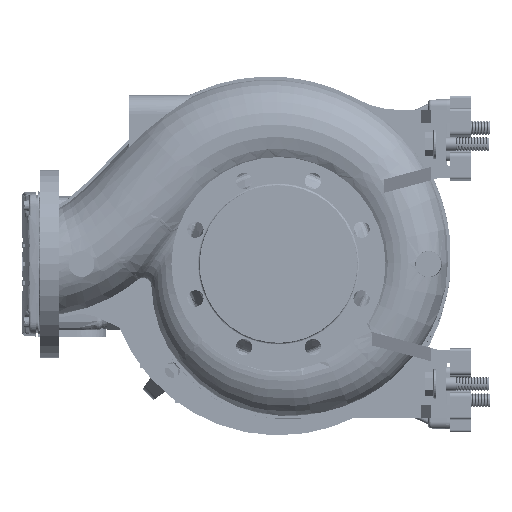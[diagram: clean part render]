
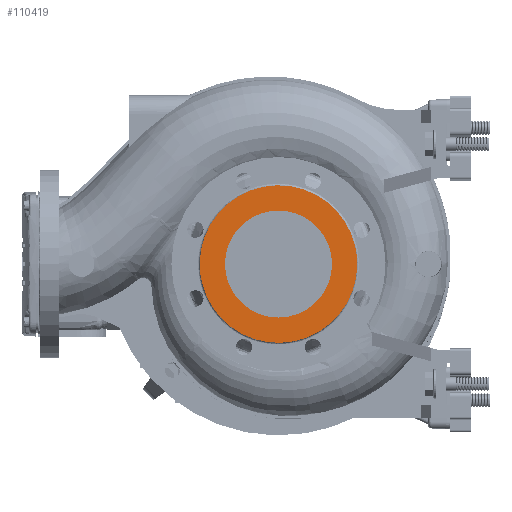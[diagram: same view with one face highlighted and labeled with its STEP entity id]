
A CAD part, left-side view. The second image highlights one B-rep face of the part: STEP entity #110419.
In plain terms, the highlighted planar face has unit normal (-1, 0, 0).
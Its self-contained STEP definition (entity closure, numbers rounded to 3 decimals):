
#4273 = CARTESIAN_POINT ( 'NONE',  ( -125., -93.104, 93.104 ) ) ;
#7447 = CARTESIAN_POINT ( 'NONE',  ( -125., 88.18, -26.749 ) ) ;
#10805 = CARTESIAN_POINT ( 'NONE',  ( -125., -65.473, 65.473 ) ) ;
#15192 = CARTESIAN_POINT ( 'NONE',  ( -125., 18.062, 90.815 ) ) ;
#16651 = CARTESIAN_POINT ( 'NONE',  ( -125., 88.18, 26.749 ) ) ;
#20717 = CARTESIAN_POINT ( 'NONE',  ( -125., 0., 62.5 ) ) ;
#23612 = DIRECTION ( 'NONE',  ( 1., 0., 0. ) ) ;
#28237 = CARTESIAN_POINT ( 'NONE',  ( -125., 91.704, -9.033 ) ) ;
#31132 = CARTESIAN_POINT ( 'NONE',  ( -125., -92., -6.021 ) ) ;
#34523 = CARTESIAN_POINT ( 'NONE',  ( -125., 66.273, 64.149 ) ) ;
#35985 = CARTESIAN_POINT ( 'NONE',  ( -125., 92., 0. ) ) ;
#37431 = CARTESIAN_POINT ( 'NONE',  ( -125., 32.548, 86.419 ) ) ;
#37528 = DIRECTION ( 'NONE',  ( 0., 0., -1. ) ) ;
#38875 = CARTESIAN_POINT ( 'NONE',  ( -125., -90.814, 18.064 ) ) ;
#50455 = CARTESIAN_POINT ( 'NONE',  ( -125., -65.473, -65.473 ) ) ;
#59745 = CARTESIAN_POINT ( 'NONE',  ( -125., 0., 0. ) ) ;
#60498 = VERTEX_POINT ( 'NONE', #168890 ) ;
#61986 = CARTESIAN_POINT ( 'NONE',  ( -125., 0., 0. ) ) ;
#67740 = EDGE_LOOP ( 'NONE', ( #276050, #166337 ) ) ;
#69487 = DIRECTION ( 'NONE',  ( 0., 0., -1. ) ) ;
#70948 = FACE_OUTER_BOUND ( 'NONE', #67740, .T. ) ;
#71223 = CARTESIAN_POINT ( 'NONE',  ( -125., -35.434, -85.545 ) ) ;
#77017 = CARTESIAN_POINT ( 'NONE',  ( -125., -90.814, -18.064 ) ) ;
#77503 = AXIS2_PLACEMENT_3D ( 'NONE', #61986, #267726, #226256 ) ;
#83318 = CARTESIAN_POINT ( 'NONE',  ( -125., -51.442, 76.988 ) ) ;
#94917 = CARTESIAN_POINT ( 'NONE',  ( -125., 58.458, -71.231 ) ) ;
#97810 = CARTESIAN_POINT ( 'NONE',  ( -125., 43.438, -81.267 ) ) ;
#98687 = CARTESIAN_POINT ( 'NONE',  ( -125., 0., -62.5 ) ) ;
#99274 = CARTESIAN_POINT ( 'NONE',  ( -125., -85.545, -35.434 ) ) ;
#101158 = CARTESIAN_POINT ( 'NONE',  ( -125., 74.163, 55.003 ) ) ;
#104116 = CARTESIAN_POINT ( 'NONE',  ( -125., 0.001, 92.593 ) ) ;
#107014 = CARTESIAN_POINT ( 'NONE',  ( -125., -92., 6.021 ) ) ;
#110419 = ADVANCED_FACE ( 'NONE', ( #210092, #70948 ), #180603, .F. ) ;
#118586 = CARTESIAN_POINT ( 'NONE',  ( -125., 92., -3.009 ) ) ;
#124863 = CARTESIAN_POINT ( 'NONE',  ( -125., -85.545, 35.434 ) ) ;
#126323 = CARTESIAN_POINT ( 'NONE',  ( -125., 85.133, 35.264 ) ) ;
#137878 = CARTESIAN_POINT ( 'NONE',  ( -125., 0.001, -92.593 ) ) ;
#139344 = CARTESIAN_POINT ( 'NONE',  ( -125., -18.064, -90.814 ) ) ;
#143688 = CARTESIAN_POINT ( 'NONE',  ( -125., 32.548, -86.419 ) ) ;
#145579 = CARTESIAN_POINT ( 'NONE',  ( -125., -92., 0. ) ) ;
#148509 = CARTESIAN_POINT ( 'NONE',  ( -125., 90.377, 17.977 ) ) ;
#149951 = CARTESIAN_POINT ( 'NONE',  ( -125., 92., 3.009 ) ) ;
#154926 = EDGE_CURVE ( 'NONE', #275742, #173180, #205213, .T. ) ;
#161523 = CARTESIAN_POINT ( 'NONE',  ( -125., 18.062, -90.815 ) ) ;
#162974 = CARTESIAN_POINT ( 'NONE',  ( -125., 74.163, -55.003 ) ) ;
#163619 = EDGE_CURVE ( 'NONE', #219068, #60498, #236882, .T. ) ;
#166337 = ORIENTED_EDGE ( 'NONE', *, *, #163619, .F. ) ;
#168890 = CARTESIAN_POINT ( 'NONE',  ( -125., -92., 0. ) ) ;
#173180 = VERTEX_POINT ( 'NONE', #98687 ) ;
#173643 = CARTESIAN_POINT ( 'NONE',  ( -125., 58.458, 71.231 ) ) ;
#174605 = B_SPLINE_CURVE_WITH_KNOTS ( 'NONE', 3,
 ( #274100, #31132, #77017, #99274, #189576, #50455, #207440, #71223, #139344, #137878, #161523, #143688, #97810, #253339, #94917, #185215, #162974, #231113, #188108, #7447, #278452, #28237, #118586, #228197 ),
 .UNSPECIFIED., .F., .F.,
 ( 4, 1, 1, 1, 1, 1, 1, 1, 1, 1, 1, 1, 1, 1, 1, 1, 1, 1, 1, 1, 1, 4 ),
 ( 0., 0.018, 0.036, 0.054, 0.072, 0.091, 0.109, 0.127, 0.145, 0.163, 0.181, 0.19, 0.199, 0.208, 0.217, 0.231, 0.244, 0.254, 0.263, 0.272, 0.281, 0.29 ),
 .UNSPECIFIED. ) ;
#180603 = PLANE ( 'NONE',  #218143 ) ;
#185215 = CARTESIAN_POINT ( 'NONE',  ( -125., 66.273, -64.149 ) ) ;
#187250 = EDGE_LOOP ( 'NONE', ( #245456, #282778 ) ) ;
#188108 = CARTESIAN_POINT ( 'NONE',  ( -125., 85.133, -35.264 ) ) ;
#189576 = CARTESIAN_POINT ( 'NONE',  ( -125., -76.988, -51.442 ) ) ;
#194391 = CARTESIAN_POINT ( 'NONE',  ( -125., -35.434, 85.545 ) ) ;
#195858 = CARTESIAN_POINT ( 'NONE',  ( -125., 43.438, 81.267 ) ) ;
#205213 = CIRCLE ( 'NONE', #77503, 62.5 ) ;
#207440 = CARTESIAN_POINT ( 'NONE',  ( -125., -51.442, -76.988 ) ) ;
#210092 = FACE_BOUND ( 'NONE', #187250, .T. ) ;
#213715 = CARTESIAN_POINT ( 'NONE',  ( -125., 51.195, 76.618 ) ) ;
#216643 = CARTESIAN_POINT ( 'NONE',  ( -125., 80.624, 44.798 ) ) ;
#218143 = AXIS2_PLACEMENT_3D ( 'NONE', #4273, #23612, #69487 ) ;
#219068 = VERTEX_POINT ( 'NONE', #265317 ) ;
#226256 = DIRECTION ( 'NONE',  ( 0., 0., -1. ) ) ;
#228197 = CARTESIAN_POINT ( 'NONE',  ( -125., 92., 0. ) ) ;
#231113 = CARTESIAN_POINT ( 'NONE',  ( -125., 80.624, -44.798 ) ) ;
#236882 = B_SPLINE_CURVE_WITH_KNOTS ( 'NONE', 3,
 ( #35985, #149951, #240307, #148509, #16651, #126323, #216643, #101158, #34523, #173643, #213715, #195858, #37431, #15192, #104116, #286192, #194391, #83318, #10805, #263948, #124863, #38875, #107014, #145579 ),
 .UNSPECIFIED., .F., .F.,
 ( 4, 1, 1, 1, 1, 1, 1, 1, 1, 1, 1, 1, 1, 1, 1, 1, 1, 1, 1, 1, 1, 4 ),
 ( 0., 0.009, 0.018, 0.027, 0.036, 0.045, 0.059, 0.073, 0.082, 0.091, 0.1, 0.109, 0.127, 0.145, 0.163, 0.181, 0.199, 0.218, 0.236, 0.254, 0.272, 0.29 ),
 .UNSPECIFIED. ) ;
#240307 = CARTESIAN_POINT ( 'NONE',  ( -125., 91.704, 9.033 ) ) ;
#240404 = DIRECTION ( 'NONE',  ( -1., 0., 0. ) ) ;
#245456 = ORIENTED_EDGE ( 'NONE', *, *, #285375, .F. ) ;
#250697 = AXIS2_PLACEMENT_3D ( 'NONE', #59745, #240404, #37528 ) ;
#253339 = CARTESIAN_POINT ( 'NONE',  ( -125., 51.195, -76.618 ) ) ;
#263948 = CARTESIAN_POINT ( 'NONE',  ( -125., -76.988, 51.442 ) ) ;
#264287 = EDGE_CURVE ( 'NONE', #60498, #219068, #174605, .T. ) ;
#265317 = CARTESIAN_POINT ( 'NONE',  ( -125., 92., 0. ) ) ;
#267726 = DIRECTION ( 'NONE',  ( -1., 0., 0. ) ) ;
#274100 = CARTESIAN_POINT ( 'NONE',  ( -125., -92., 0. ) ) ;
#274369 = CIRCLE ( 'NONE', #250697, 62.5 ) ;
#275742 = VERTEX_POINT ( 'NONE', #20717 ) ;
#276050 = ORIENTED_EDGE ( 'NONE', *, *, #264287, .F. ) ;
#278452 = CARTESIAN_POINT ( 'NONE',  ( -125., 90.377, -17.977 ) ) ;
#282778 = ORIENTED_EDGE ( 'NONE', *, *, #154926, .F. ) ;
#285375 = EDGE_CURVE ( 'NONE', #173180, #275742, #274369, .T. ) ;
#286192 = CARTESIAN_POINT ( 'NONE',  ( -125., -18.064, 90.814 ) ) ;
